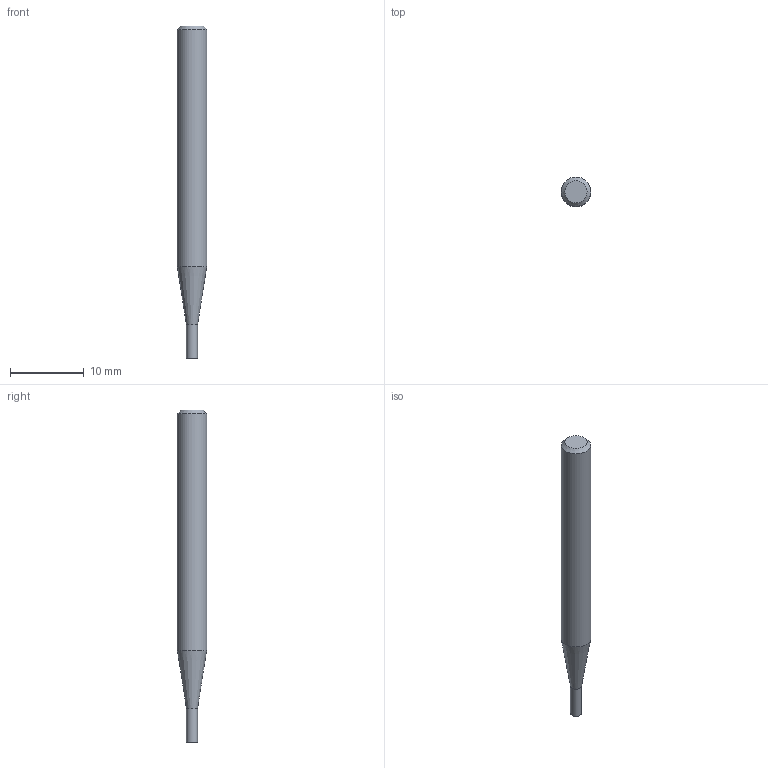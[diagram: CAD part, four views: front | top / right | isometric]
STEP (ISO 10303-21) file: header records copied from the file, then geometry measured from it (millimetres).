
FILE_DESCRIPTION((''),'2;1');
FILE_NAME('C:\Users\nsx150\Desktop\RSE230_20210427\01-00644-01500 RSE230 D1_5X4_5.step','2021-05-07T14:53:23',(''),(''),'STEP Write','Mastercam 2021 ... CNC Software, Inc.','');
FILE_SCHEMA(('AUTOMOTIVE_DESIGN'));
Length unit declared in the file: millimetre
Products named in the file (1): None
Bounding box: 4 x 4 x 45 mm (x, y, z)
Volume: 466.4 mm3; surface area: 513.9 mm2
Topology: 2 solids, 2 shells, 8 faces, 10 edges, 6 vertices
Faces by surface type: plane 4, cylinder 2, cone 2
Full cylindrical faces by diameter (mm): 1.5 x1, 4 x1
Entity records: 190 total; most frequent: DIRECTION 32, CARTESIAN_POINT 22, AXIS2_PLACEMENT_3D 16, ORIENTED_EDGE 12, EDGE_LOOP 12, STYLED_ITEM 11, ADVANCED_FACE 8, VERTEX_POINT 6
